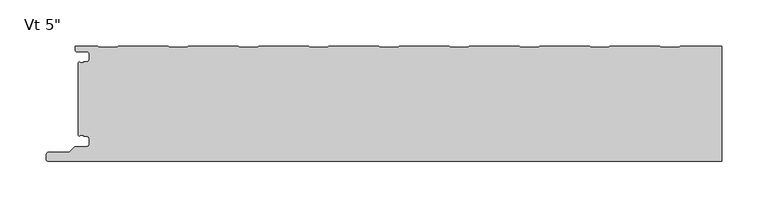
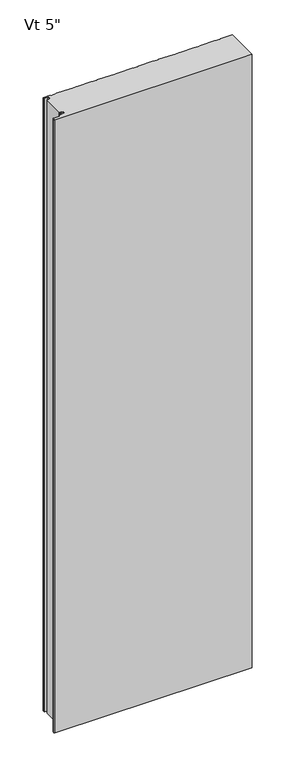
"""IFC4 building model written with IfcOpenShell, lengths in millimetres: plate geometry."""

import ifcopenshell
import ifcopenshell.guid

model = None  # the IFC model being written
_history = None  # IfcOwnerHistory: only IFC2X3 demands one
_inside = {}  # id of a spatial element -> (the spatial element, [elements in it])
_under = {}  # id of a project, library or spatial element -> (it, [spatial elements below it])
_declared = {}  # id of a project -> (the project, [libraries it declares])
_typed = {}  # id of a type object -> (the type object, [elements of that type])
_made_of = {}  # id of a material, layer set ... -> (it, [elements and type objects made of it])


def new_model(schema):
    """Start an empty IFC model of exactly this schema.

    Asked for "IFC4X3", IfcOpenShell would pick the latest addendum, in which some entities
    have other attributes; the version numbers below select the first issue.
    IFC2X3 requires an IfcOwnerHistory on every rooted entity: one is made here for all.
    """
    global model, _history
    if schema == "IFC4X3":
        model = ifcopenshell.file(schema_version=(4, 3, 0, 0))
    else:
        model = ifcopenshell.file(schema=schema)
    _inside.clear()
    _under.clear()
    _declared.clear()
    _typed.clear()
    _made_of.clear()
    _history = None
    if model.schema == "IFC2X3":
        org = make("IfcOrganization", Name="unknown")
        user = make(
            "IfcPersonAndOrganization",
            ThePerson=make("IfcPerson", FamilyName="unknown"),
            TheOrganization=org,
        )
        app = make(
            "IfcApplication",
            ApplicationDeveloper=org,
            Version="unknown",
            ApplicationFullName="unknown",
            ApplicationIdentifier="unknown",
        )
        _history = make(
            "IfcOwnerHistory",
            OwningUser=user,
            OwningApplication=app,
            ChangeAction="ADDED",
            CreationDate=0,
        )
    return model


def make(cls, **values):
    """One entity of the class cls with the attributes given. An attribute that is None is left unset."""
    return model.create_entity(
        cls, **{name: value for name, value in values.items() if value is not None}
    )


def rooted(cls, **values):
    """An entity with a GlobalId (a new one), such as an element, a storey or a relation."""
    return make(cls, GlobalId=ifcopenshell.guid.new(), OwnerHistory=_history, **values)


def si_unit(unit_type, name, prefix=None):
    """IfcSIUnit, for example si_unit("LENGTHUNIT", "METRE", prefix="MILLI")."""
    return make("IfcSIUnit", UnitType=unit_type, Prefix=prefix, Name=name)


def assignment(units):
    """IfcUnitAssignment: the units of a project."""
    return None if units is None else make("IfcUnitAssignment", Units=units)


def point(xyz):
    """IfcCartesianPoint."""
    return None if xyz is None else make("IfcCartesianPoint", Coordinates=xyz)


def direction(xyz):
    """IfcDirection."""
    return None if xyz is None else make("IfcDirection", DirectionRatios=xyz)


def frame(location, z_axis=None, x_axis=None):
    """IfcAxis2Placement3D, a coordinate frame: its origin and axes. An axis left out is left unset."""
    return make(
        "IfcAxis2Placement3D",
        Location=point(location),
        Axis=direction(z_axis),
        RefDirection=direction(x_axis),
    )


def origin():
    """The frame at (0, 0, 0) with its axes left unset."""
    return frame((0.0, 0.0, 0.0))


def place(relative_to, where):
    """IfcLocalPlacement: puts the frame where relative to a parent placement (None: the world)."""
    return make(
        "IfcLocalPlacement", PlacementRelTo=relative_to, RelativePlacement=where
    )


def context(
    kind, dimensions, precision=None, world=None, true_north=None, identifier=None
):
    """IfcGeometricRepresentationContext, for example the 3D "Model" context."""
    return make(
        "IfcGeometricRepresentationContext",
        ContextIdentifier=identifier,
        ContextType=kind,
        CoordinateSpaceDimension=dimensions,
        Precision=precision,
        WorldCoordinateSystem=world,
        TrueNorth=true_north,
    )


def project(units=None, contexts=None):
    """IfcProject with its units and contexts."""
    return rooted(
        "IfcProject",
        Name="project",
        RepresentationContexts=contexts,
        UnitsInContext=assignment(units),
    )


def spatial(cls, under=None, at=None, **own):
    """A site, building, storey or space (cls), placed at a placement, below another one or the project."""
    s = rooted(cls, ObjectPlacement=at, **own)
    if under is not None:
        _under.setdefault(under.id(), (under, []))[1].append(s)
    return s


def polyline(points):
    """IfcPolyline through the points."""
    return make("IfcPolyline", Points=[point(p) for p in points])


def circle_curve(where, radius):
    """IfcCircle in the frame where."""
    return make("IfcCircle", Position=where, Radius=radius)


def shape(context_of_items, identifier, shape_type, items):
    """IfcShapeRepresentation: the items that make up one representation, for example the "Body"."""
    return make(
        "IfcShapeRepresentation",
        ContextOfItems=context_of_items,
        RepresentationIdentifier=identifier,
        RepresentationType=shape_type,
        Items=items,
    )


def source(mapping_origin, context_of_items, identifier, shape_type, items):
    """IfcRepresentationMap: a shape defined once, which mapped items show again and again."""
    return make(
        "IfcRepresentationMap",
        MappingOrigin=mapping_origin,
        MappedRepresentation=shape(context_of_items, identifier, shape_type, items),
    )


def transform(
    local_origin,
    x_axis=None,
    y_axis=None,
    z_axis=None,
    scale=None,
    scale2=None,
    scale3=None,
    uniform=True,
):
    """IfcCartesianTransformationOperator3D, or its non-uniform kind. x_axis, y_axis, z_axis: its Axis1, 2, 3."""
    if uniform:
        return make(
            "IfcCartesianTransformationOperator3D",
            Axis1=direction(x_axis),
            Axis2=direction(y_axis),
            LocalOrigin=point(local_origin),
            Scale=scale,
            Axis3=direction(z_axis),
        )
    return make(
        "IfcCartesianTransformationOperator3DnonUniform",
        Axis1=direction(x_axis),
        Axis2=direction(y_axis),
        LocalOrigin=point(local_origin),
        Scale=scale,
        Axis3=direction(z_axis),
        Scale2=scale2,
        Scale3=scale3,
    )


def mapped(mapping_source, mapping_target):
    """IfcMappedItem: shows the shape of a source again, moved by a transform."""
    return make(
        "IfcMappedItem", MappingSource=mapping_source, MappingTarget=mapping_target
    )


def made_of(thing, what):
    """Note that an element or type object is made of a material, layer set ...; save() writes the relation."""
    if what is not None:
        _made_of.setdefault(what.id(), (what, []))[1].append(thing)
    return thing


def element(
    cls,
    number,
    at=None,
    inside=None,
    cuts=None,
    type_object=None,
    material=None,
    context=None,
    identifier="Body",
    shape_type=None,
    held_by="IfcProductDefinitionShape",
    body=None,
    shapes=None,
    **own,
):
    """One element of the class cls, such as IfcWall. Its Tag is "e" and its number.

    at: its placement. inside: the storey or other place that contains it. cuts: it is an
    opening in that element (IfcRelVoidsElement). A single representation is given by context,
    identifier, shape_type and body (its items); several are given by shapes. held_by: the class
    of the entity that holds the representations. save() writes the other relations.
    """
    e = rooted(cls, Tag="e%d" % number, ObjectPlacement=at, **own)
    if body is not None:
        shapes = [shape(context, identifier, shape_type, body)]
    if shapes is not None:
        e.Representation = make(held_by, Representations=shapes)
    if inside is not None:
        _inside.setdefault(inside.id(), (inside, []))[1].append(e)
    if cuts is not None:
        rooted(
            "IfcRelVoidsElement", RelatingBuildingElement=cuts, RelatedOpeningElement=e
        )
    if type_object is not None:
        _typed.setdefault(type_object.id(), (type_object, []))[1].append(e)
    return made_of(e, material)


def aggregate(whole, parts):
    """IfcRelAggregates: a whole, such as a stair, and the parts it consists of."""
    return rooted("IfcRelAggregates", RelatingObject=whole, RelatedObjects=parts)


def save(model, path):
    """Write the relations noted so far, then the file.

    IfcRelAggregates (storeys below a building ...), IfcRelContainedInSpatialStructure (elements
    in a storey), IfcRelDefinesByType, IfcRelAssociatesMaterial and IfcRelDeclares: one each for
    every whole, place, type object, material and project.
    """
    for whole, parts in _under.values():
        aggregate(whole, parts)
    for where, things in _inside.values():
        rooted(
            "IfcRelContainedInSpatialStructure",
            RelatedElements=things,
            RelatingStructure=where,
        )
    for kind, things in _typed.values():
        rooted("IfcRelDefinesByType", RelatedObjects=things, RelatingType=kind)
    for what, things in _made_of.values():
        rooted("IfcRelAssociatesMaterial", RelatedObjects=things, RelatingMaterial=what)
    for by, libraries in _declared.values():
        rooted("IfcRelDeclares", RelatingContext=by, RelatedDefinitions=libraries)
    model.write(path)


def plane_surface(at):
    """IfcPlane: the flat surface through the origin of the frame at, square to its z axis."""
    return make("IfcPlane", Position=at)


def cylinder_surface(at, radius):
    """IfcCylindricalSurface: all points at the distance radius from the z axis of the frame at."""
    return make("IfcCylindricalSurface", Position=at, Radius=radius)


def revolved_surface(curve, axis_point, axis_direction):
    """IfcSurfaceOfRevolution: the curve turned about the line through axis_point along axis_direction."""
    return make(
        "IfcSurfaceOfRevolution",
        SweptCurve=make("IfcArbitraryOpenProfileDef", ProfileType="CURVE", Curve=curve),
        AxisPosition=make("IfcAxis1Placement", Location=point(axis_point), Axis=direction(axis_direction)),
    )


def advanced_brep(points, edges, surfaces, faces):
    """IfcAdvancedBrep: a solid bounded by faces that lie on surfaces and meet in shared edges.

    An edge is (start, end): straight between two places in points (the first is 0);
    or (start, end, curve); or (start, end, curve, False) where it runs against its curve.
    A face is (place in surfaces, loops), or (place, loops, False) where it looks against
    its surface's normal. A loop lists edges by number (the first is 1), with a minus sign
    where the edge is run from its end to its start. The first loop is the outer one.
    """
    corners = [point(p) for p in points]
    vertices = [make("IfcVertexPoint", VertexGeometry=c) for c in corners]
    made = []
    for start, end, *more in edges:
        made.append(
            make(
                "IfcEdgeCurve",
                EdgeStart=vertices[start],
                EdgeEnd=vertices[end],
                EdgeGeometry=more[0] if more else make("IfcPolyline", Points=[corners[start], corners[end]]),
                SameSense=more[1] if len(more) > 1 else True,
            )
        )
    hull = []
    for where, loops, *sense in faces:
        bounds = []
        for j, loop in enumerate(loops):
            ring = [make("IfcOrientedEdge", EdgeElement=made[abs(k) - 1], Orientation=k > 0) for k in loop]
            bounds.append(
                make(
                    "IfcFaceOuterBound" if j == 0 else "IfcFaceBound",
                    Bound=make("IfcEdgeLoop", EdgeList=ring),
                    Orientation=True,
                )
            )
        hull.append(make("IfcAdvancedFace", Bounds=bounds, FaceSurface=surfaces[where], SameSense=sense[0] if sense else True))
    return make("IfcAdvancedBrep", Outer=make("IfcClosedShell", CfsFaces=hull))


def plate_e084fbfc(model_context):
    return source(origin(), model_context, "Body", "AdvancedBrep", [
        advanced_brep(
        [(-347.9683, -98.6708793, 2400.0), (-346.767176, -97.5014045, 2400.0), (-343.0087826, -97.5014045, 2400.0), (-343.0087826, -98.8998834, 2400.0), (-340.3096715, -98.8998834, 2400.0), (-336.9596762, -102.2498787, 2400.0), (-336.9596762, -106.6498699, 2400.0), (-340.3096715, -109.9998652, 2400.0), (-352.1205606, -109.9998652, 2400.0), (-353.3226383, -110.4977821, 2400.0), (-358.8247094, -115.9998532, 2400.0), (-380.9198391, -115.9998532, 2400.0), (-383.5765707, -118.2184552, 2400.0), (-384.0125697, -123.2002761, 2400.0), (-381.4521175, -125.994601, 2400.0), (348.9999998, -126.0000043, 2400.0), (348.9999998, -1.0000043, 2400.0), (303.7792489, -1.0000043, 2400.0), (302.3936159, -2.200235, 2400.0), (283.0184496, -2.200235, 2400.0), (281.6328167, -1.0000043, 2400.0), (227.5794013, -1.0000043, 2400.0), (226.1937683, -2.200235, 2400.0), (206.818602, -2.200235, 2400.0), (205.4329691, -1.0000043, 2400.0), (151.3795537, -1.0000043, 2400.0), (149.9939207, -2.200235, 2400.0), (130.6187544, -2.200235, 2400.0), (129.2331215, -1.0000043, 2400.0), (75.1797061, -1.0000043, 2400.0), (73.7940731, -2.200235, 2400.0), (54.4189068, -2.200235, 2400.0), (53.0332739, -1.0000043, 2400.0), (-1.0201415, -1.0000043, 2400.0), (-2.4057745, -2.200235, 2400.0), (-21.7809408, -2.200235, 2400.0), (-23.1665737, -1.0000043, 2400.0), (-77.2199891, -1.0000043, 2400.0), (-78.6056221, -2.200235, 2400.0), (-97.9807884, -2.200235, 2400.0), (-99.3664213, -1.0000043, 2400.0), (-153.4198367, -1.0000043, 2400.0), (-154.8054697, -2.200235, 2400.0), (-174.180636, -2.200235, 2400.0), (-175.5662689, -1.0000043, 2400.0), (-229.6196843, -1.0000043, 2400.0), (-231.0053173, -2.200235, 2400.0), (-250.3804836, -2.200235, 2400.0), (-251.7661165, -1.0000043, 2400.0), (-305.8195319, -1.0000043, 2400.0), (-307.2051649, -2.200235, 2400.0), (-326.5803312, -2.200235, 2400.0), (-327.9659738, -0.9999959, 2400.0), (-352.4662504, -0.9999959, 2400.0), (-352.4662504, -5.2315432, 2400.0), (-350.6962562, -7.0015374, 2400.0), (-340.2762777, -7.0015374, 2400.0), (-336.9762818, -10.3015333, 2400.0), (-336.9762818, -14.7015245, 2400.0), (-340.2762775, -18.0015202, 2400.0), (-342.9684873, -18.0015202, 2400.0), (-342.9684873, -19.0015147, 2400.0), (-346.968691, -19.0015147, 2400.0), (-347.9686882, -18.0015235, 2400.0), (-348.9999998, -19.0328351, 2400.0), (-348.9999998, -97.6391794, 2400.0), (-347.9683, -98.6708793, 0.0), (-348.9999998, -97.6391794, 0.0), (-348.9999998, -19.0328351, 0.0), (-347.9686882, -18.0015235, 0.0), (-346.968691, -19.0015147, 0.0), (-342.9684873, -19.0015147, 0.0), (-342.9684873, -18.0015202, 0.0), (-340.2762775, -18.0015202, 0.0), (-336.9762818, -14.7015245, 0.0), (-336.9762818, -10.3015333, 0.0), (-340.2762777, -7.0015374, 0.0), (-350.6962562, -7.0015374, 0.0), (-352.4662504, -5.2315432, 0.0), (-352.4662504, -0.9999959, 0.0), (-327.9659738, -0.9999959, 0.0), (-326.5803312, -2.200235, 0.0), (-307.2051649, -2.200235, 0.0), (-305.8195319, -1.0000043, 0.0), (-251.7661165, -1.0000043, 0.0), (-250.3804836, -2.200235, 0.0), (-231.0053173, -2.200235, 0.0), (-229.6196843, -1.0000043, 0.0), (-175.5662689, -1.0000043, 0.0), (-174.180636, -2.200235, 0.0), (-154.8054697, -2.200235, 0.0), (-153.4198367, -1.0000043, 0.0), (-99.3664213, -1.0000043, 0.0), (-97.9807884, -2.200235, 0.0), (-78.6056221, -2.200235, 0.0), (-77.2199891, -1.0000043, 0.0), (-23.1665737, -1.0000043, 0.0), (-21.7809408, -2.200235, 0.0), (-2.4057745, -2.200235, 0.0), (-1.0201415, -1.0000043, 0.0), (53.0332739, -1.0000043, 0.0), (54.4189068, -2.200235, 0.0), (73.7940731, -2.200235, 0.0), (75.1797061, -1.0000043, 0.0), (129.2331215, -1.0000043, 0.0), (130.6187544, -2.200235, 0.0), (149.9939207, -2.200235, 0.0), (151.3795537, -1.0000043, 0.0), (205.4329691, -1.0000043, 0.0), (206.818602, -2.200235, 0.0), (226.1937683, -2.200235, 0.0), (227.5794013, -1.0000043, 0.0), (281.6328167, -1.0000043, 0.0), (283.0184496, -2.200235, 0.0), (302.3936159, -2.200235, 0.0), (303.7792489, -1.0000043, 0.0), (348.9999998, -1.0000043, 0.0), (348.9999998, -126.0000043, 0.0), (-381.4521175, -126.0000043, 0.0), (-384.0125697, -123.2002761, 0.0), (-383.5765707, -118.2184552, 0.0), (-380.9198391, -115.9998532, 0.0), (-358.8247094, -115.9998532, 0.0), (-353.3226383, -110.4977821, 0.0), (-352.1205606, -109.9998652, 0.0), (-340.3096715, -109.9998652, 0.0), (-336.9596762, -106.6498699, 0.0), (-336.9596762, -102.2498787, 0.0), (-340.3096715, -98.8998834, 0.0), (-343.0087826, -98.8998834, 0.0), (-343.0087826, -97.5014045, 0.0), (-346.767176, -97.5014045, 0.0)],
        [
            (0, 1, circle_curve(frame((-346.7686906, -98.7014012, 2400.0), z_axis=(0.0, 0.0, -1.0), x_axis=(-1.0, 0.0, 0.0)), 1.1999976)),
            (1, 2),
            (2, 3),
            (3, 4),
            (4, 5, circle_curve(frame((-340.3096715, -102.2498787, 2400.0), z_axis=(0.0, 0.0, -1.0), x_axis=(-1.0, 0.0, 0.0)), 3.3499953)),
            (5, 6),
            (6, 7, circle_curve(frame((-340.3096715, -106.6498699, 2400.0), z_axis=(0.0, 0.0, -1.0), x_axis=(-1.0, 0.0, 0.0)), 3.3499953)),
            (7, 8),
            (8, 9, circle_curve(frame((-352.1205606, -111.6998598, 2400.0), z_axis=(0.0, 0.0, 1.0), x_axis=(-1.0, 0.0, 0.0)), 1.6999946)),
            (9, 10),
            (10, 11),
            (11, 12, circle_curve(frame((-380.9198391, -118.6998458, 2400.0), z_axis=(0.0, 0.0, 1.0), x_axis=(-1.0, 0.0, 0.0)), 2.6999926)),
            (12, 13),
            (13, 14, circle_curve(frame((-381.4521175, -123.4243617, 2400.0), z_axis=(0.0, 0.0, 1.0), x_axis=(-1.0, 0.0, 0.0)), 2.5702393)),
            (14, 15),
            (15, 16),
            (16, 17),
            (17, 18),
            (18, 19),
            (19, 20),
            (20, 21),
            (21, 22),
            (22, 23),
            (23, 24),
            (24, 25),
            (25, 26),
            (26, 27),
            (27, 28),
            (28, 29),
            (29, 30),
            (30, 31),
            (31, 32),
            (32, 33),
            (33, 34),
            (34, 35),
            (35, 36),
            (36, 37),
            (37, 38),
            (38, 39),
            (39, 40),
            (40, 41),
            (41, 42),
            (42, 43),
            (43, 44),
            (44, 45),
            (45, 46),
            (46, 47),
            (47, 48),
            (48, 49),
            (49, 50),
            (50, 51),
            (51, 52),
            (52, 53),
            (53, 54),
            (54, 55, circle_curve(frame((-350.6962562, -5.2315432, 2400.0), z_axis=(0.0, 0.0, 1.0), x_axis=(1.0, 0.0, 0.0)), 1.7699942)),
            (55, 56),
            (56, 57, circle_curve(frame((-340.2762777, -10.3015333, 2400.0), z_axis=(0.0, 0.0, -1.0), x_axis=(1.0, 0.0, 0.0)), 3.2999959)),
            (57, 58),
            (58, 59, circle_curve(frame((-340.2762775, -14.7015245, 2400.0), z_axis=(0.0, 0.0, -1.0), x_axis=(1.0, 0.0, 0.0)), 3.2999957)),
            (59, 60),
            (60, 61),
            (61, 62),
            (62, 63, circle_curve(frame((-346.968691, -18.0015175, 2400.0), z_axis=(0.0, 0.0, -1.0), x_axis=(1.0, 0.0, 0.0)), 0.9999972)),
            (63, 64),
            (64, 65),
            (65, 0),
            (66, 67),
            (67, 68),
            (68, 69),
            (69, 70, circle_curve(frame((-346.968691, -18.0015175, 0.0), z_axis=(0.0, 0.0, 1.0), x_axis=(1.0, 0.0, 0.0)), 0.9999972)),
            (70, 71),
            (71, 72),
            (72, 73),
            (73, 74, circle_curve(frame((-340.2762775, -14.7015245, 0.0), z_axis=(0.0, 0.0, 1.0), x_axis=(1.0, 0.0, 0.0)), 3.2999957)),
            (74, 75),
            (75, 76, circle_curve(frame((-340.2762777, -10.3015333, 0.0), z_axis=(0.0, 0.0, 1.0), x_axis=(1.0, 0.0, 0.0)), 3.2999959)),
            (76, 77),
            (77, 78, circle_curve(frame((-350.6962562, -5.2315432, 0.0), z_axis=(0.0, 0.0, -1.0), x_axis=(1.0, 0.0, 0.0)), 1.7699942)),
            (78, 79),
            (79, 80),
            (80, 81),
            (81, 82),
            (82, 83),
            (83, 84),
            (84, 85),
            (85, 86),
            (86, 87),
            (87, 88),
            (88, 89),
            (89, 90),
            (90, 91),
            (91, 92),
            (92, 93),
            (93, 94),
            (94, 95),
            (95, 96),
            (96, 97),
            (97, 98),
            (98, 99),
            (99, 100),
            (100, 101),
            (101, 102),
            (102, 103),
            (103, 104),
            (104, 105),
            (105, 106),
            (106, 107),
            (107, 108),
            (108, 109),
            (109, 110),
            (110, 111),
            (111, 112),
            (112, 113),
            (113, 114),
            (114, 115),
            (115, 116),
            (116, 117),
            (117, 118),
            (118, 119, circle_curve(frame((-381.4521175, -123.4243617, 0.0), z_axis=(0.0, 0.0, -1.0), x_axis=(-1.0, 0.0, 0.0)), 2.5702393)),
            (119, 120),
            (120, 121, circle_curve(frame((-380.9198391, -118.6998458, 0.0), z_axis=(0.0, 0.0, -1.0), x_axis=(-1.0, 0.0, 0.0)), 2.6999926)),
            (121, 122),
            (122, 123),
            (123, 124, circle_curve(frame((-352.1205606, -111.6998598, 0.0), z_axis=(0.0, 0.0, -1.0), x_axis=(-1.0, 0.0, 0.0)), 1.6999946)),
            (124, 125),
            (125, 126, circle_curve(frame((-340.3096715, -106.6498699, 0.0), z_axis=(0.0, 0.0, 1.0), x_axis=(-1.0, 0.0, 0.0)), 3.3499953)),
            (126, 127),
            (127, 128, circle_curve(frame((-340.3096715, -102.2498787, 0.0), z_axis=(0.0, 0.0, 1.0), x_axis=(-1.0, 0.0, 0.0)), 3.3499953)),
            (128, 129),
            (129, 130),
            (130, 131),
            (131, 66, circle_curve(frame((-346.7686906, -98.7014012, 0.0), z_axis=(0.0, 0.0, 1.0), x_axis=(-1.0, 0.0, 0.0)), 1.1999976)),
            (65, 67),
            (66, 0),
            (64, 68),
            (117, 15),
            (14, 118),
            (13, 119),
            (12, 120),
            (11, 121),
            (10, 122),
            (9, 123),
            (8, 124),
            (7, 125),
            (6, 126),
            (5, 127),
            (4, 128),
            (3, 129),
            (2, 130),
            (1, 131),
            (116, 16),
            (63, 69),
            (62, 70),
            (61, 71),
            (60, 72),
            (59, 73),
            (58, 74),
            (57, 75),
            (56, 76),
            (55, 77),
            (54, 78),
            (53, 79),
            (52, 80),
            (51, 81),
            (50, 82),
            (49, 83),
            (48, 84),
            (47, 85),
            (46, 86),
            (45, 87),
            (44, 88),
            (43, 89),
            (42, 90),
            (41, 91),
            (40, 92),
            (39, 93),
            (38, 94),
            (37, 95),
            (36, 96),
            (35, 97),
            (34, 98),
            (33, 99),
            (32, 100),
            (31, 101),
            (30, 102),
            (29, 103),
            (28, 104),
            (27, 105),
            (26, 106),
            (25, 107),
            (24, 108),
            (23, 109),
            (22, 110),
            (21, 111),
            (20, 112),
            (19, 113),
            (18, 114),
            (17, 115),
        ],
        [
            plane_surface(frame((32.0000002, -126.0000043, 2400.0), z_axis=(0.0, 0.0, 1.0), x_axis=(0.0, -1.0, 0.0))),
            plane_surface(frame((32.0000002, -126.0000043, 0.0), z_axis=(0.0, 0.0, -1.0), x_axis=(0.0, -1.0, 0.0))),
            plane_surface(frame((-347.9683, -98.6708793, 2400.0), z_axis=(-0.7071067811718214, -0.7071067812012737, 0.0), x_axis=(0.0, 0.0, -1.0))),
            plane_surface(frame((-348.9999998, -97.6391794, 2400.0), z_axis=(-1.0, 0.0, 0.0), x_axis=(0.0, 0.0, -1.0))),
            plane_surface(frame((364.5156221, -126.0000043, 2400.0), z_axis=(0.0, -1.0, 0.0), x_axis=(0.0, 0.0, -1.0))),
            cylinder_surface(frame((-381.4521175, -123.4243617, 2400.0), z_axis=(0.0, 0.0, 1.0), x_axis=(-1.0, 0.0, 0.0)), 2.5702393),
            plane_surface(frame((-384.0125697, -123.2002761, 2400.0), z_axis=(-0.9961921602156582, 0.08718474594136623, 0.0), x_axis=(0.0, 0.0, -1.0))),
            cylinder_surface(frame((-380.9198391, -118.6998458, 2400.0), z_axis=(0.0, 0.0, 1.0), x_axis=(-1.0, 0.0, 0.0)), 2.6999926),
            plane_surface(frame((-380.9198391, -115.9998532, 2400.0), z_axis=(0.0, 1.0, 0.0), x_axis=(0.0, 0.0, -1.0))),
            plane_surface(frame((-358.8247094, -115.9998532, 2400.0), z_axis=(-0.7071067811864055, 0.7071067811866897, 0.0), x_axis=(0.0, 0.0, -1.0))),
            cylinder_surface(frame((-352.1205606, -111.6998598, 2400.0), z_axis=(0.0, 0.0, 1.0), x_axis=(-1.0, 0.0, 0.0)), 1.6999946),
            plane_surface(frame((-352.1205606, -109.9998652, 2400.0), z_axis=(0.0, 1.0, 0.0), x_axis=(0.0, 0.0, -1.0))),
            revolved_surface(polyline([(-343.65966679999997, -106.6498699, 0.0), (-343.65966679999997, -106.6498699, 2400.0)]), (-340.3096715, -106.6498699, 2400.0), (0.0, 0.0, -1.0)),
            plane_surface(frame((-336.9596762, -106.6498699, 2400.0), z_axis=(-1.0, 0.0, 0.0), x_axis=(0.0, 0.0, -1.0))),
            revolved_surface(polyline([(-343.65966679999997, -102.2498787, 0.0), (-343.65966679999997, -102.2498787, 2400.0)]), (-340.3096715, -102.2498787, 2400.0), (0.0, 0.0, -1.0)),
            plane_surface(frame((-340.3096715, -98.8998834, 2400.0), z_axis=(0.0, -1.0, 0.0), x_axis=(0.0, 0.0, -1.0))),
            plane_surface(frame((-343.0087826, -98.8998834, 2400.0), z_axis=(-1.0, 0.0, 0.0), x_axis=(0.0, 0.0, -1.0))),
            plane_surface(frame((-343.0087826, -97.5014045, 2400.0), z_axis=(0.0, -1.0, 0.0), x_axis=(0.0, 0.0, -1.0))),
            revolved_surface(polyline([(-347.96868820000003, -98.7014012, 0.0), (-347.96868820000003, -98.7014012, 2400.0)]), (-346.7686906, -98.7014012, 2400.0), (0.0, 0.0, -1.0)),
            plane_surface(frame((348.9999998, -137.0000043, 2400.0), z_axis=(1.0, 0.0, 0.0), x_axis=(0.0, 0.0, -1.0))),
            plane_surface(frame((-348.9999998, -19.0328351, 2400.0), z_axis=(-0.7071067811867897, 0.7071067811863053, 0.0), x_axis=(0.0, 0.0, -1.0))),
            revolved_surface(polyline([(-345.9686938, -18.0015175, 0.0), (-345.9686938, -18.0015175, 2400.0)]), (-346.968691, -18.0015175, 2400.0), (0.0, 0.0, -1.0)),
            plane_surface(frame((-346.968691, -19.0015147, 2400.0), z_axis=(0.0, 1.0, 0.0), x_axis=(0.0, 0.0, -1.0))),
            plane_surface(frame((-342.9684873, -19.0015147, 2400.0), z_axis=(-1.0, 0.0, 0.0), x_axis=(0.0, 0.0, -1.0))),
            plane_surface(frame((-342.9684873, -18.0015202, 2400.0), z_axis=(0.0, 1.0, 0.0), x_axis=(0.0, 0.0, -1.0))),
            revolved_surface(polyline([(-336.9762818, -14.7015245, 0.0), (-336.9762818, -14.7015245, 2400.0)]), (-340.2762775, -14.7015245, 2400.0), (0.0, 0.0, -1.0)),
            plane_surface(frame((-336.9762818, -14.7015245, 2400.0), z_axis=(-1.0, 0.0, 0.0), x_axis=(0.0, 0.0, -1.0))),
            revolved_surface(polyline([(-336.9762818, -10.3015333, 0.0), (-336.9762818, -10.3015333, 2400.0)]), (-340.2762777, -10.3015333, 2400.0), (0.0, 0.0, -1.0)),
            plane_surface(frame((-340.2762777, -7.0015374, 2400.0), z_axis=(0.0, -1.0, 0.0), x_axis=(0.0, 0.0, -1.0))),
            cylinder_surface(frame((-350.6962562, -5.2315432, 2400.0), z_axis=(0.0, 0.0, 1.0), x_axis=(1.0, 0.0, 0.0)), 1.7699942),
            plane_surface(frame((-352.4662504, -5.2315432, 2400.0), z_axis=(-1.0, 0.0, 0.0), x_axis=(0.0, 0.0, -1.0))),
            plane_surface(frame((-352.4662504, -0.9999959, 2400.0), z_axis=(0.0, 1.0, 0.0), x_axis=(0.0, 0.0, -1.0))),
            plane_surface(frame((-327.9659738, -0.9999959, 2400.0), z_axis=(0.6547276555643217, 0.755864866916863, 0.0), x_axis=(0.0, 0.0, -1.0))),
            plane_surface(frame((-326.5803312, -2.200235, 2400.0), z_axis=(0.0, 1.0, 0.0), x_axis=(0.0, 0.0, -1.0))),
            plane_surface(frame((-307.2051649, -2.200235, 2400.0), z_axis=(-0.6547276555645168, 0.755864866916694, 0.0), x_axis=(0.0, 0.0, -1.0))),
            plane_surface(frame((-305.8195319, -1.0000043, 2400.0), z_axis=(0.0, 1.0, 0.0), x_axis=(0.0, 0.0, -1.0))),
            plane_surface(frame((-251.7661165, -1.0000043, 2400.0), z_axis=(0.6547276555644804, 0.7558648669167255, 0.0), x_axis=(0.0, 0.0, -1.0))),
            plane_surface(frame((-250.3804836, -2.200235, 2400.0), z_axis=(0.0, 1.0, 0.0), x_axis=(0.0, 0.0, -1.0))),
            plane_surface(frame((-231.0053173, -2.200235, 2400.0), z_axis=(-0.6547276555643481, 0.7558648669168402, 0.0), x_axis=(0.0, 0.0, -1.0))),
            plane_surface(frame((-229.6196843, -1.0000043, 2400.0), z_axis=(0.0, 1.0, 0.0), x_axis=(0.0, 0.0, -1.0))),
            plane_surface(frame((-175.5662689, -1.0000043, 2400.0), z_axis=(0.6547276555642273, 0.7558648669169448, 0.0), x_axis=(0.0, 0.0, -1.0))),
            plane_surface(frame((-174.180636, -2.200235, 2400.0), z_axis=(0.0, 1.0, 0.0), x_axis=(0.0, 0.0, -1.0))),
            plane_surface(frame((-154.8054697, -2.200235, 2400.0), z_axis=(-0.6547276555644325, 0.755864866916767, 0.0), x_axis=(0.0, 0.0, -1.0))),
            plane_surface(frame((-153.4198367, -1.0000043, 2400.0), z_axis=(0.0, 1.0, 0.0), x_axis=(0.0, 0.0, -1.0))),
            plane_surface(frame((-99.3664213, -1.0000043, 2400.0), z_axis=(0.6547276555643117, 0.7558648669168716, 0.0), x_axis=(0.0, 0.0, -1.0))),
            plane_surface(frame((-97.9807884, -2.200235, 2400.0), z_axis=(0.0, 1.0, 0.0), x_axis=(0.0, 0.0, -1.0))),
            plane_surface(frame((-78.6056221, -2.200235, 2400.0), z_axis=(-0.6547276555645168, 0.755864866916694, 0.0), x_axis=(0.0, 0.0, -1.0))),
            plane_surface(frame((-77.2199891, -1.0000043, 2400.0), z_axis=(0.0, 1.0, 0.0), x_axis=(0.0, 0.0, -1.0))),
            plane_surface(frame((-23.1665737, -1.0000043, 2400.0), z_axis=(0.654727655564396, 0.7558648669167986, 0.0), x_axis=(0.0, 0.0, -1.0))),
            plane_surface(frame((-21.7809408, -2.200235, 2400.0), z_axis=(0.0, 1.0, 0.0), x_axis=(0.0, 0.0, -1.0))),
            plane_surface(frame((-2.4057745, -2.200235, 2400.0), z_axis=(-0.6547276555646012, 0.7558648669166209, 0.0), x_axis=(0.0, 0.0, -1.0))),
            plane_surface(frame((-1.0201415, -1.0000043, 2400.0), z_axis=(0.0, 1.0, 0.0), x_axis=(0.0, 0.0, -1.0))),
            plane_surface(frame((53.0332739, -1.0000043, 2400.0), z_axis=(0.6547276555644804, 0.7558648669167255, 0.0), x_axis=(0.0, 0.0, -1.0))),
            plane_surface(frame((54.4189068, -2.200235, 2400.0), z_axis=(0.0, 1.0, 0.0), x_axis=(0.0, 0.0, -1.0))),
            plane_surface(frame((73.7940731, -2.200235, 2400.0), z_axis=(-0.65472765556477, 0.7558648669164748, 0.0), x_axis=(0.0, 0.0, -1.0))),
            plane_surface(frame((75.1797061, -1.0000043, 2400.0), z_axis=(0.0, 1.0, 0.0), x_axis=(0.0, 0.0, -1.0))),
            plane_surface(frame((129.2331215, -1.0000043, 2400.0), z_axis=(0.6547276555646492, 0.7558648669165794, 0.0), x_axis=(0.0, 0.0, -1.0))),
            plane_surface(frame((130.6187544, -2.200235, 2400.0), z_axis=(0.0, 1.0, 0.0), x_axis=(0.0, 0.0, -1.0))),
            plane_surface(frame((149.9939207, -2.200235, 2400.0), z_axis=(-0.65472765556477, 0.7558648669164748, 0.0), x_axis=(0.0, 0.0, -1.0))),
            plane_surface(frame((151.3795537, -1.0000043, 2400.0), z_axis=(0.0, 1.0, 0.0), x_axis=(0.0, 0.0, -1.0))),
            plane_surface(frame((205.4329691, -1.0000043, 2400.0), z_axis=(0.6547276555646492, 0.7558648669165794, 0.0), x_axis=(0.0, 0.0, -1.0))),
            plane_surface(frame((206.818602, -2.200235, 2400.0), z_axis=(0.0, 1.0, 0.0), x_axis=(0.0, 0.0, -1.0))),
            plane_surface(frame((226.1937683, -2.200235, 2400.0), z_axis=(-0.6547276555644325, 0.755864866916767, 0.0), x_axis=(0.0, 0.0, -1.0))),
            plane_surface(frame((227.5794013, -1.0000043, 2400.0), z_axis=(0.0, 1.0, 0.0), x_axis=(0.0, 0.0, -1.0))),
            plane_surface(frame((281.6328167, -1.0000043, 2400.0), z_axis=(0.6547276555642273, 0.7558648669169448, 0.0), x_axis=(0.0, 0.0, -1.0))),
            plane_surface(frame((283.0184496, -2.200235, 2400.0), z_axis=(0.0, 1.0, 0.0), x_axis=(0.0, 0.0, -1.0))),
            plane_surface(frame((302.3936159, -2.200235, 2400.0), z_axis=(-0.6547276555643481, 0.7558648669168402, 0.0), x_axis=(0.0, 0.0, -1.0))),
            plane_surface(frame((303.7792489, -1.0000043, 2400.0), z_axis=(0.0, 1.0, 0.0), x_axis=(0.0, 0.0, -1.0))),
        ],
        [
            (0, [[1, 2, 3, 4, 5, 6, 7, 8, 9, 10, 11, 12, 13, 14, 15, 16, 17, 18, 19, 20, 21, 22, 23, 24, 25, 26, 27, 28, 29, 30, 31, 32, 33, 34, 35, 36, 37, 38, 39, 40, 41, 42, 43, 44, 45, 46, 47, 48, 49, 50, 51, 52, 53, 54, 55, 56, 57, 58, 59, 60, 61, 62, 63, 64, 65, 66]]),
            (1, [[67, 68, 69, 70, 71, 72, 73, 74, 75, 76, 77, 78, 79, 80, 81, 82, 83, 84, 85, 86, 87, 88, 89, 90, 91, 92, 93, 94, 95, 96, 97, 98, 99, 100, 101, 102, 103, 104, 105, 106, 107, 108, 109, 110, 111, 112, 113, 114, 115, 116, 117, 118, 119, 120, 121, 122, 123, 124, 125, 126, 127, 128, 129, 130, 131, 132]]),
            (2, [[133, -67, 134, -66]]),
            (3, [[-65, 135, -68, -133]]),
            (4, [[-118, 136, -15, 137]]),
            (5, [[138, -119, -137, -14]]),
            (6, [[139, -120, -138, -13]]),
            (7, [[140, -121, -139, -12]]),
            (8, [[141, -122, -140, -11]]),
            (9, [[142, -123, -141, -10]]),
            (10, [[143, -124, -142, -9]]),
            (11, [[144, -125, -143, -8]]),
            (12, [[145, -126, -144, -7]]),
            (13, [[146, -127, -145, -6]]),
            (14, [[147, -128, -146, -5]]),
            (15, [[148, -129, -147, -4]]),
            (16, [[149, -130, -148, -3]]),
            (17, [[150, -131, -149, -2]]),
            (18, [[-134, -132, -150, -1]]),
            (19, [[-136, -117, 151, -16]]),
            (20, [[152, -69, -135, -64]]),
            (21, [[153, -70, -152, -63]]),
            (22, [[154, -71, -153, -62]]),
            (23, [[155, -72, -154, -61]]),
            (24, [[156, -73, -155, -60]]),
            (25, [[157, -74, -156, -59]]),
            (26, [[158, -75, -157, -58]]),
            (27, [[159, -76, -158, -57]]),
            (28, [[160, -77, -159, -56]]),
            (29, [[161, -78, -160, -55]]),
            (30, [[162, -79, -161, -54]]),
            (31, [[163, -80, -162, -53]]),
            (32, [[164, -81, -163, -52]]),
            (33, [[165, -82, -164, -51]]),
            (34, [[166, -83, -165, -50]]),
            (35, [[167, -84, -166, -49]]),
            (36, [[168, -85, -167, -48]]),
            (37, [[169, -86, -168, -47]]),
            (38, [[170, -87, -169, -46]]),
            (39, [[171, -88, -170, -45]]),
            (40, [[172, -89, -171, -44]]),
            (41, [[173, -90, -172, -43]]),
            (42, [[174, -91, -173, -42]]),
            (43, [[175, -92, -174, -41]]),
            (44, [[176, -93, -175, -40]]),
            (45, [[177, -94, -176, -39]]),
            (46, [[178, -95, -177, -38]]),
            (47, [[179, -96, -178, -37]]),
            (48, [[180, -97, -179, -36]]),
            (49, [[181, -98, -180, -35]]),
            (50, [[182, -99, -181, -34]]),
            (51, [[183, -100, -182, -33]]),
            (52, [[184, -101, -183, -32]]),
            (53, [[185, -102, -184, -31]]),
            (54, [[186, -103, -185, -30]]),
            (55, [[187, -104, -186, -29]]),
            (56, [[188, -105, -187, -28]]),
            (57, [[189, -106, -188, -27]]),
            (58, [[190, -107, -189, -26]]),
            (59, [[191, -108, -190, -25]]),
            (60, [[192, -109, -191, -24]]),
            (61, [[193, -110, -192, -23]]),
            (62, [[194, -111, -193, -22]]),
            (63, [[195, -112, -194, -21]]),
            (64, [[196, -113, -195, -20]]),
            (65, [[197, -114, -196, -19]]),
            (66, [[198, -115, -197, -18]]),
            (67, [[-17, -151, -116, -198]]),
        ],
    ),
    ])


if __name__ == "__main__":
    model = new_model("IFC4")
    model_context = context("Model", 3, world=origin())
    ifc_project = project(units=[si_unit("LENGTHUNIT", "METRE", prefix="MILLI")], contexts=[model_context])
    site = spatial("IfcSite", under=ifc_project)
    building = spatial("IfcBuilding", under=site)
    placement = place(None, origin())
    plate_shape = plate_e084fbfc(model_context)
    element("IfcPlate", 1, ObjectType="KIP-30-Karrier-KP-R19-CP-Vt-FL3-8_SL : Vt 5\"", at=placement, inside=building, context=model_context, shape_type="MappedRepresentation", body=[
        mapped(plate_shape, transform((0.0, 0.0, 0.0), x_axis=(1.0, 0.0, 0.0), y_axis=(0.0, 1.0, 0.0), z_axis=(0.0, 0.0, 1.0))),
    ])
    save(model, "model.ifc")
